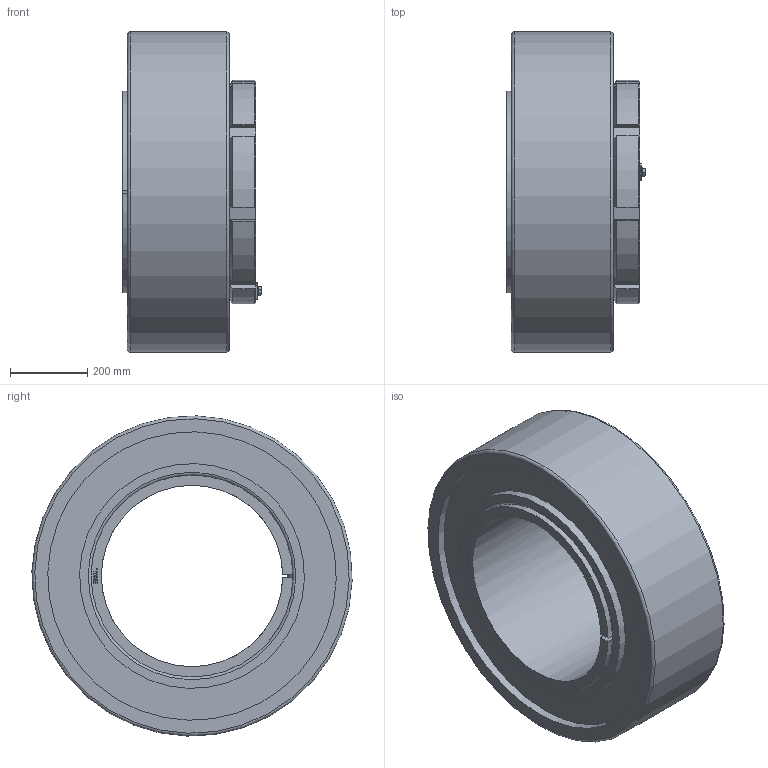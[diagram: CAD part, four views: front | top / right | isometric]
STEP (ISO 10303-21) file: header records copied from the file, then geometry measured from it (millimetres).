
FILE_DESCRIPTION( ( 'STEP AP203' ), ' ' );
FILE_NAME( 'p:/temp/worker_127/2720_4056/app_90_02016102820233056406713192d056f_000000_00_00_000000/format_0/BGL H 31_500 TL+231_500K.stp', '2016-10-28T18:23:36', ( '' ), ( '' ), ' ', 'PARTsolutions', ' ' );
FILE_SCHEMA( ( 'CONFIG_CONTROL_DESIGN' ) );
Length unit declared in the file: millimetre
Products named in the file (6): BGL H 31/500 TL+231/500K; _BGLH31/500TLB; _BGL HM 30/500; _BGLH31/500TL+H-231/500K; _BGL MS 3096-30/500part; _BGL MS 3096-30/500HHS
Assembly tree (5 placements, depth 2):
  BGL H 31/500 TL+231/500K
    _BGLH31/500TLB
    _BGL HM 30/500
    _BGLH31/500TL+H-231/500K
    _BGL MS 3096-30/500part
    _BGL MS 3096-30/500HHS
Bounding box: 358.78 x 829.72 x 829.72 mm (x, y, z)
Volume: 95542255.7 mm3; surface area: 3442115.5 mm2
Topology: 5 solids, 5 shells, 351 faces, 899 edges, 589 vertices
Faces by surface type: plane 230, cylinder 79, cone 38, torus 4
Full cylindrical faces by diameter (mm): 12 x9, 14 x1, 21.1 x1, 495 x1, 582.5 x2, 747.5 x2, 830 x1
Entity records: 10774 total; most frequent: CARTESIAN_POINT 2116, DIRECTION 1729, ORIENTED_EDGE 1726, EDGE_CURVE 863, VERTEX_POINT 586, AXIS2_PLACEMENT_3D 577, LINE 575, VECTOR 575
